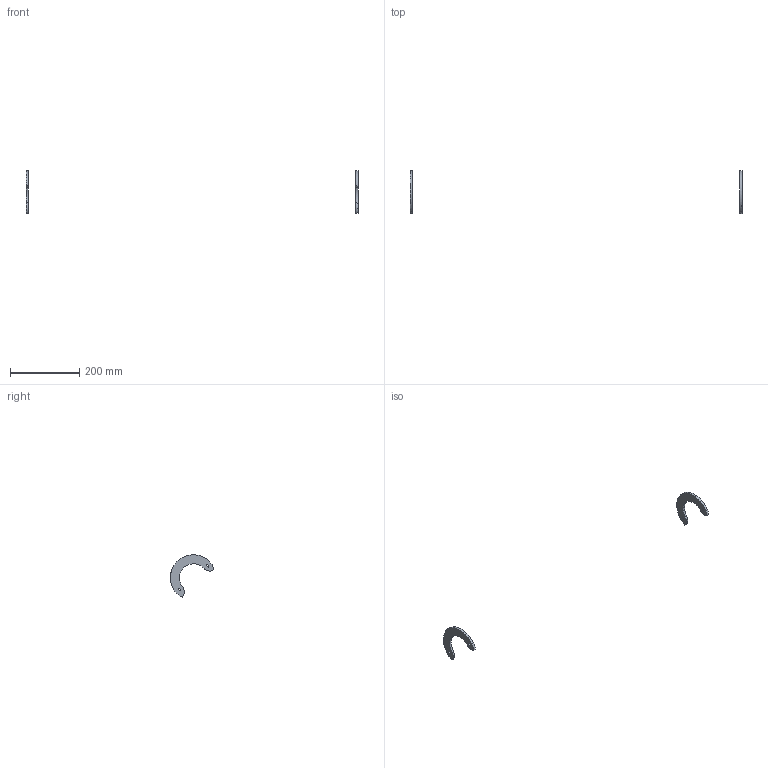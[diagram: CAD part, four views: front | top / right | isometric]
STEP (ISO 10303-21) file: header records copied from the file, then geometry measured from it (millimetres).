
FILE_DESCRIPTION(/* description */ (''),/* implementation_level */ '2;1');
FILE_NAME(/* name */ '10.optics-laser#10.4#la-mpk-1',/* time_stamp */ '2014-12-01T20:19:26+01:00',/* author */ (''),/* organization */ (''),/* preprocessor_version */ 'ST-DEVELOPER v14',/* originating_system */ '',/* authorisation */ '');
FILE_SCHEMA (('AUTOMOTIVE_DESIGN'));
Length unit declared in the file: millimetre
Products named in the file (1): Document
Bounding box: 956 x 123.96 x 121.9 mm (x, y, z)
Volume: 59557.3 mm3; surface area: 25797.5 mm2
Topology: 2 solids, 2 shells, 30 faces, 78 edges, 52 vertices
Faces by surface type: bspline 26, plane 4
Entity records: 1897 total; most frequent: CARTESIAN_POINT 954, ORIENTED_EDGE 156, PCURVE 156, DEFINITIONAL_REPRESENTATION 156, B_SPLINE_CURVE_WITH_KNOTS 104, SURFACE_CURVE 78, EDGE_CURVE 78, VERTEX_POINT 52
